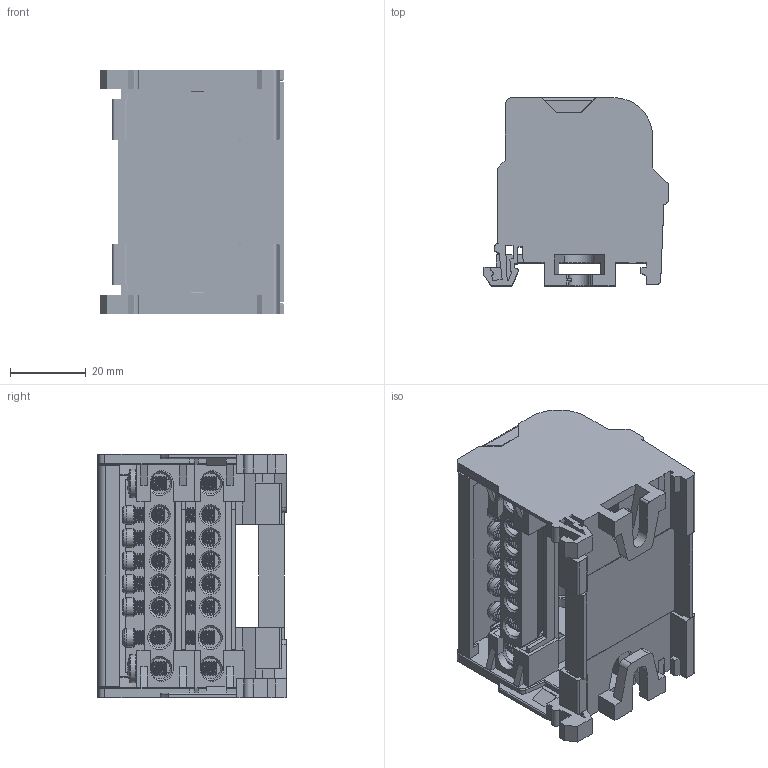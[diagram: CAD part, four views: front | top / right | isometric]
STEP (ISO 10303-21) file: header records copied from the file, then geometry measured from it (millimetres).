
FILE_DESCRIPTION(/* description */ (''),/* implementation_level */ '2;1');
FILE_NAME(/* name */ '2021.4.22.stp',/* time_stamp */ '2021-04-22T12:51:46+08:00',/* author */ (''),/* organization */ (''),/* preprocessor_version */ 'ST-DEVELOPER v16',/* originating_system */ 'SIEMENS PLM Software NX 10.0',/* authorisation */ '');
FILE_SCHEMA (('AUTOMOTIVE_DESIGN { 1 0 10303 214 3 1 1 1 }'));
Products named in the file (1): Admi43286BEBy2qe
Bounding box: 48.7 x 49.8 x 64.5 mm (x, y, z)
Volume: 35310.3 mm3; surface area: 44625.8 mm2
Topology: 24 solids, 24 shells, 1327 faces, 3571 edges, 2302 vertices
Faces by surface type: plane 869, cylinder 226, torus 60, cone 56, bspline 48, extrusion 34, sphere 34
Full cylindrical faces by diameter (mm): 3.3 x16, 4.5 x10, 5 x12, 5.2 x4, 5.4 x6, 7.6 x4
Entity records: 77923 total; most frequent: CARTESIAN_POINT 45816, ORIENTED_EDGE 6762, DIRECTION 6083, EDGE_CURVE 3381, VECTOR 2369, LINE 2335, VERTEX_POINT 2238, AXIS2_PLACEMENT_3D 1857
